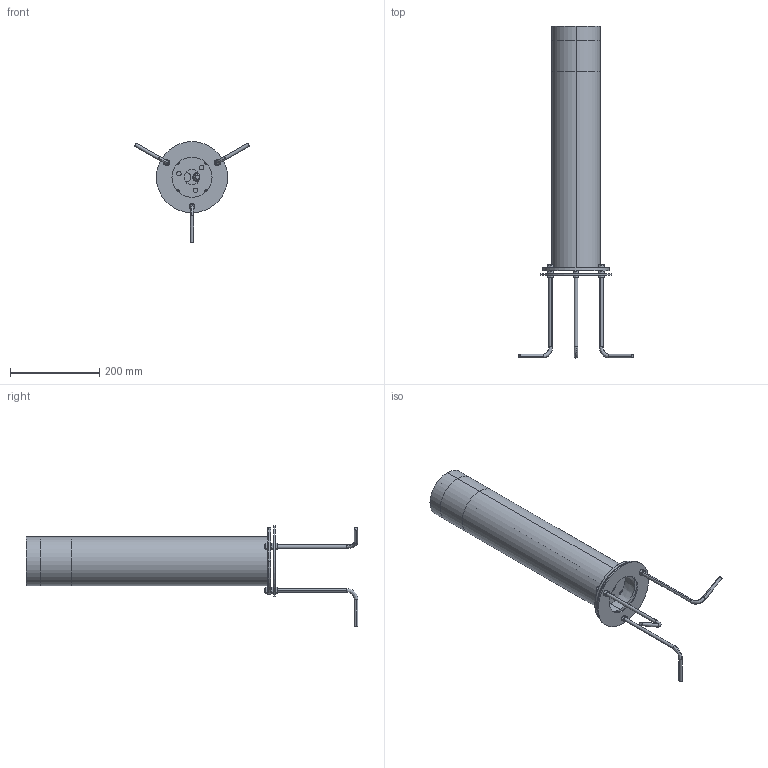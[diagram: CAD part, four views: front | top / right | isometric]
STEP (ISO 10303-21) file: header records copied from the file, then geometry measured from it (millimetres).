
FILE_DESCRIPTION((''),'2;1');
FILE_NAME('D9ADDENGTI_ASM_29_ASM','2024-09-20T',('C028'),(''),'CREO PARAMETRIC BY PTC INC, 2014190','CREO PARAMETRIC BY PTC INC, 2014190','');
FILE_SCHEMA(('CONFIG_CONTROL_DESIGN'));
Products named in the file (34): 9AD-07_300_11; 9AD-09GUDINGZUO_6; 9AB-04DUDINGZUOFANGSHUIQUAN_4; 9AB-03DUDINGZUOHOUGAI_4; PAD_1_135_2; FANGUANGSAI-1_1_135_2; FANGSHUISAI_1_135_2; PG9_ASM_1_ASM_135_ASM_2_ASM; PG9_ASM_2_ASM; 9AR-06TOUGUANGZHAODIZUO_12; 9AC-01SAIREBAN_4; PCB-00_7_5; M254_2; DIANPIAM_1; M3X501_1_6_9; M412MM_2; 2ISPINGDIAN_3; 9AD-10TOUGUANGZHAO_5; 9AD-12_6; M3_20_5_2; M4X12MM_3_1_1_2_2; HEP; ZHI_JIA_12; 0827_ASM; D9AD_ASM_11_ASM; 9AD-04_12; 9AD-01SHANGHAI_14; LI_BAN; 9AB_FA_LAN_PAN_56; 9AB-11_4__ANY_; M8LUOMU_3__ANY_; 9AB-10_5__ANY_; 9ABDIZUO_AF5_ASM_333_ASM_1_ANY__ASM; D9ADDENGTI_ASM_29_ASM
Assembly tree (70 placements, depth 5):
  D9ADDENGTI_ASM_29_ASM
    9AD-07_300_11
    D9AD_ASM_11_ASM
      9AD-09GUDINGZUO_6
      9AB-04DUDINGZUOFANGSHUIQUAN_4  x2
      9AB-03DUDINGZUOHOUGAI_4
      PG9_ASM_2_ASM
        PG9_ASM_1_ASM_135_ASM_2_ASM
          PAD_1_135_2
          FANGUANGSAI-1_1_135_2
          FANGSHUISAI_1_135_2
      9AR-06TOUGUANGZHAODIZUO_12
      9AC-01SAIREBAN_4
      PCB-00_7_5  x6
      M254_2  x12
      DIANPIAM_1  x2
      M3X501_1_6_9  x3
      M412MM_2  x4
      2ISPINGDIAN_3  x2
      9AD-10TOUGUANGZHAO_5
      9AD-12_6
      M3_20_5_2
      M4X12MM_3_1_1_2_2  x4
      0827_ASM
        HEP
        ZHI_JIA_12
    9AD-04_12
    9AD-01SHANGHAI_14
    LI_BAN
    9AB_FA_LAN_PAN_56
    9ABDIZUO_AF5_ASM_333_ASM_1_ANY__ASM
      9AB-11_4__ANY_  x3
      M8LUOMU_3__ANY_  x9
      9AB-10_5__ANY_
Bounding box: 257.75 x 745.35 x 226.5 mm (x, y, z)
Volume: 1402732.1 mm3; surface area: 775671.9 mm2
Topology: 65 solids, 65 shells, 2415 faces, 6527 edges, 4333 vertices
Faces by surface type: plane 1307, cylinder 548, cone 294, torus 176, bspline 76, sphere 14
Entity records: 64403 total; most frequent: CARTESIAN_POINT 23575, ORIENTED_EDGE 8496, DIRECTION 8320, EDGE_CURVE 4248, AXIS2_PLACEMENT_3D 2958, VERTEX_POINT 2825, VECTOR 2404, LINE 2404
